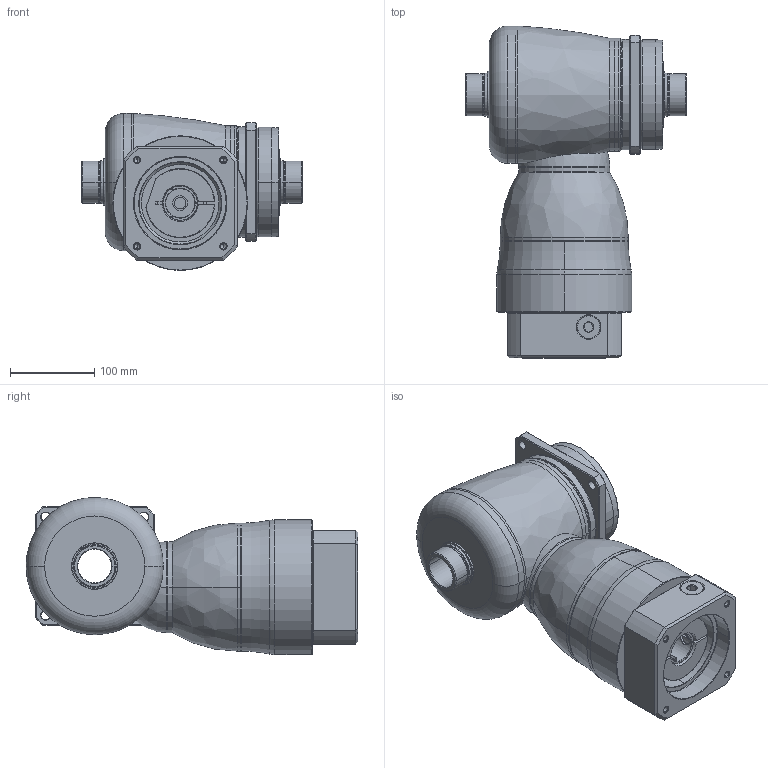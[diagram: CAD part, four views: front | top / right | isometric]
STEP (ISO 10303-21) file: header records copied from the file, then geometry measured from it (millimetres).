
FILE_DESCRIPTION((''),'2;1');
FILE_NAME('KF140_S4_2ST_35-P0409800101_ASM','2016-07-25T',('d01943'),(''),'PRO/ENGINEER BY PARAMETRIC TECHNOLOGY CORPORATION, 2008410','PRO/ENGINEER BY PARAMETRIC TECHNOLOGY CORPORATION, 2008410','');
FILE_SCHEMA(('CONFIG_CONTROL_DESIGN'));
Length unit declared in the file: millimetre
Products named in the file (11): P1008500002; P1804500001; P0914500001; P1315500001; P1007500001; P1317500401; P0409800101; P0503800012; P0912404001; 21711422019; KF140_S4_2ST_35-P0409800101_ASM
Assembly tree (10 placements, depth 2):
  KF140_S4_2ST_35-P0409800101_ASM
    P1008500002
    P1804500001
    P0914500001
    P1315500001
    P1007500001
    P1317500401
    P0409800101
    P0503800012
    P0912404001
    21711422019
Bounding box: 262 x 394 x 186.5 mm (x, y, z)
Volume: 5840029.9 mm3; surface area: 648181.4 mm2
Topology: 11 solids, 11 shells, 494 faces, 1090 edges, 642 vertices
Faces by surface type: cylinder 168, cone 136, plane 101, torus 66, bspline 21, sphere 2
Entity records: 18640 total; most frequent: CARTESIAN_POINT 7447, DIRECTION 2499, ORIENTED_EDGE 2144, EDGE_CURVE 1072, AXIS2_PLACEMENT_3D 1060, VERTEX_POINT 642, EDGE_LOOP 566, CIRCLE 566
